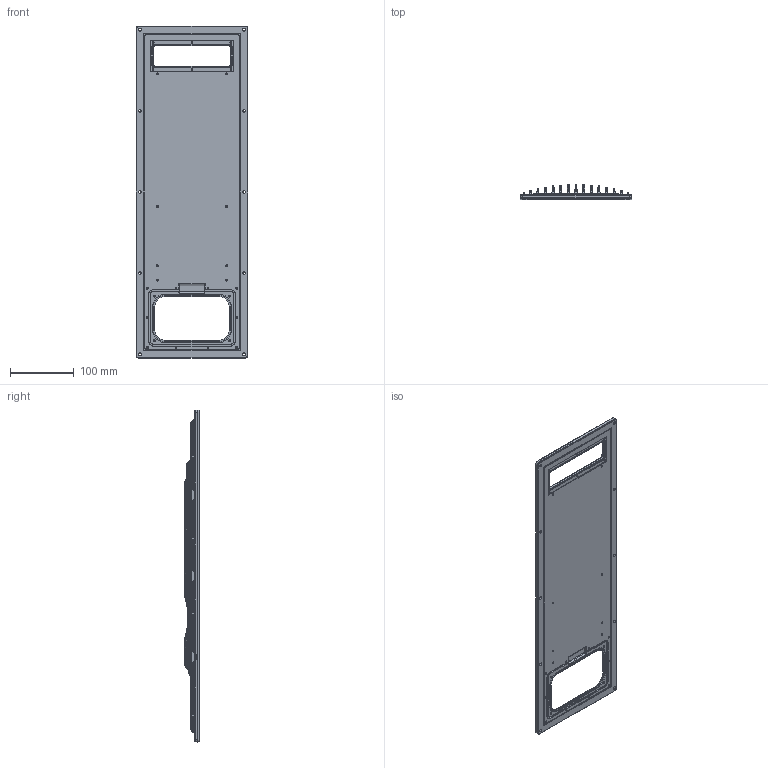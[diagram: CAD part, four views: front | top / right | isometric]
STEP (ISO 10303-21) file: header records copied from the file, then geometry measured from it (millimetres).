
FILE_DESCRIPTION((''),'2;1');
FILE_NAME('ME000782_IS_HEAT-SINK_PLATE_L','2013-02-21T',('carlo'),(''),'PRO/ENGINEER BY PARAMETRIC TECHNOLOGY CORPORATION, 2010480','PRO/ENGINEER BY PARAMETRIC TECHNOLOGY CORPORATION, 2010480','');
FILE_SCHEMA(('CONFIG_CONTROL_DESIGN'));
Products named in the file (1): ME000782_IS_HEAT-SINK_PLATE_L
Bounding box: 175 x 23 x 520 mm (x, y, z)
Volume: 708260.9 mm3; surface area: 268208.7 mm2
Topology: 1 solids, 7 shells, 1673 faces, 3979 edges, 2324 vertices
Faces by surface type: cylinder 650, plane 411, bspline 340, cone 154, torus 84, extrusion 30, sphere 4
Entity records: 94287 total; most frequent: CARTESIAN_POINT 58036, ORIENTED_EDGE 7838, DIRECTION 7103, EDGE_CURVE 3931, AXIS2_PLACEMENT_3D 2594, VERTEX_POINT 2324, VECTOR 1915, LINE 1885
